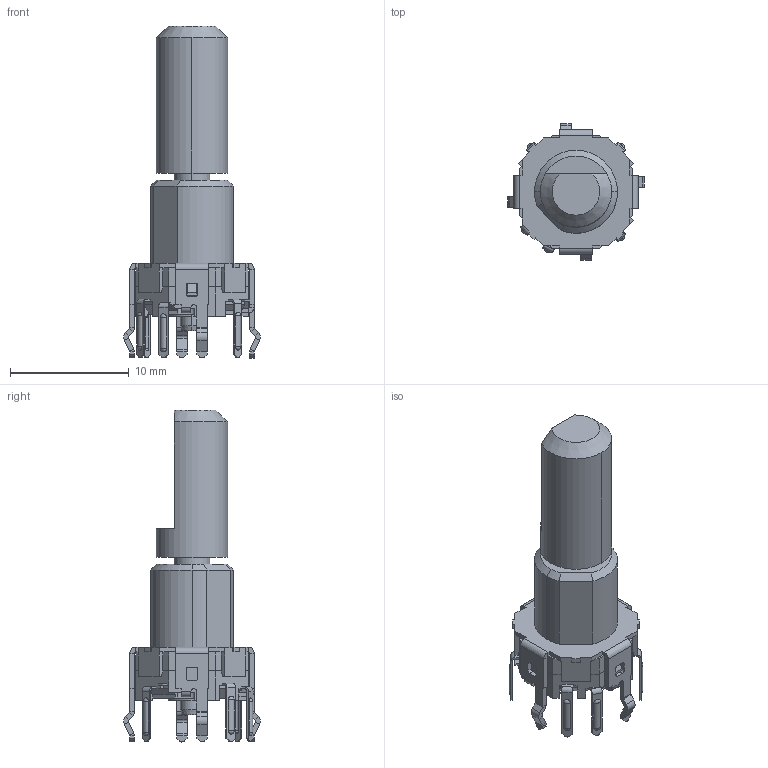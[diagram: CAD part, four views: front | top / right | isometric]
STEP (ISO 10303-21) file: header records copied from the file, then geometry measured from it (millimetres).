
FILE_DESCRIPTION (( 'STEP AP214' ), '1' );
FILE_NAME ('EC09E1524417.STEP', '2017-05-17T04:12:11', ( 'user' ), ( 'Hewlett-Packard Company' ), 'SwSTEP 2.0', 'SolidWorks 2014', '' );
FILE_SCHEMA (( 'AUTOMOTIVE_DESIGN' ));
Length unit declared in the file: millimetre
Products named in the file (1): EC09E1524417
Bounding box: 11.5 x 11.5 x 28 mm (x, y, z)
Volume: 908.7 mm3; surface area: 960.3 mm2
Topology: 1 solids, 1 shells, 658 faces, 1673 edges, 1018 vertices
Faces by surface type: plane 504, cylinder 124, sphere 20, cone 6, bspline 4
Entity records: 26424 total; most frequent: CARTESIAN_POINT 3422, ORIENTED_EDGE 3306, DIRECTION 3203, EDGE_CURVE 1653, LINE 1357, VECTOR 1357, VERTEX_POINT 1008, AXIS2_PLACEMENT_3D 923
